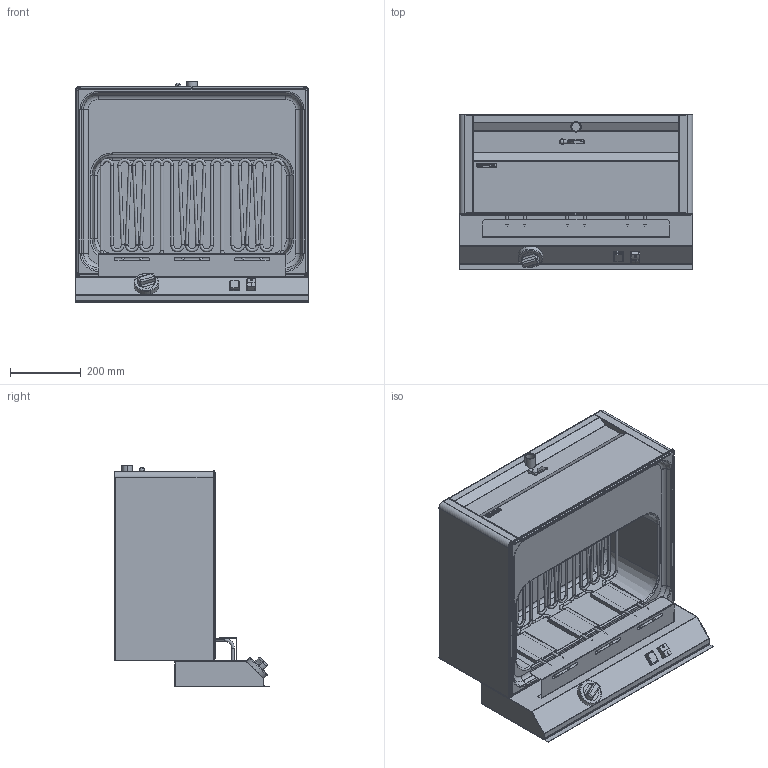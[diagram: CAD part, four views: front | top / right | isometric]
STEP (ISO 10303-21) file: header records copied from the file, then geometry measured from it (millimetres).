
FILE_DESCRIPTION (( 'STEP AP214' ), '1' );
FILE_NAME ('pres-C6FEV1666.STEP', '2025-03-28T14:44:43', ( '' ), ( '' ), 'SwSTEP 2.0', 'SolidWorks 2025', '' );
FILE_SCHEMA (( 'AUTOMOTIVE_DESIGN' ));
Length unit declared in the file: millimetre
Products named in the file (1): pres-C6FEV1666
Bounding box: 660 x 437 x 624 mm (x, y, z)
Volume: 3497629.1 mm3; surface area: 4837749.6 mm2
Topology: 26 solids, 26 shells, 1157 faces, 2632 edges, 1525 vertices
Faces by surface type: plane 561, cylinder 349, torus 178, bspline 39, cone 16, sphere 14
Entity records: 35507 total; most frequent: CARTESIAN_POINT 7568, DIRECTION 5728, ORIENTED_EDGE 5220, EDGE_CURVE 2610, AXIS2_PLACEMENT_3D 2099, VECTOR 1530, LINE 1530, VERTEX_POINT 1523
